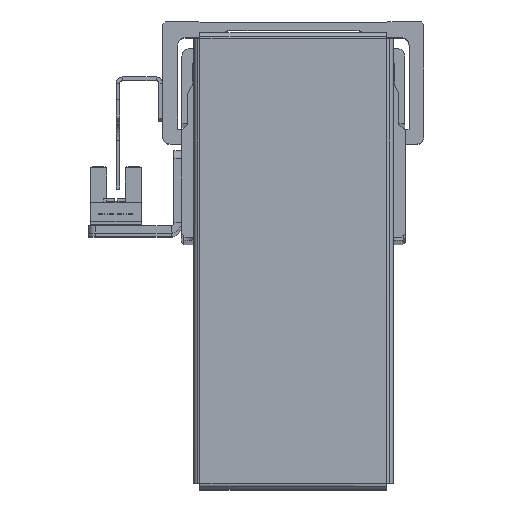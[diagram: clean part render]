
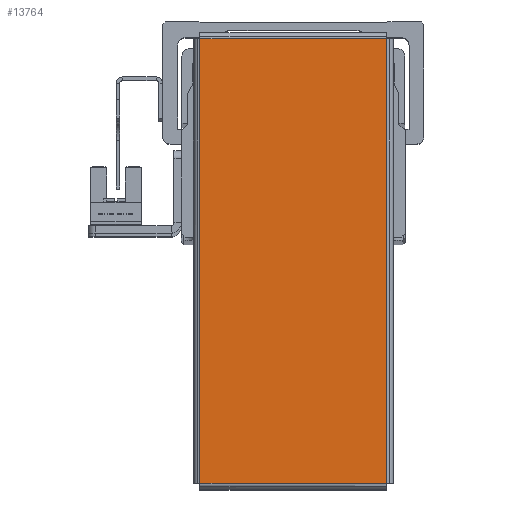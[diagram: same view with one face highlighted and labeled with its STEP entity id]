
A CAD part, top view. The second image highlights one B-rep face of the part: STEP entity #13764.
In plain terms, the highlighted planar face has unit normal (0, 0, 1) as drawn and (0, 0, -1) by its records, which use the part's own axes.
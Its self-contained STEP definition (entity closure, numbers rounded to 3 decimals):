
#2346 = ORIENTED_EDGE ( 'NONE', *, *, #22252, .T. ) ;
#2365 = ORIENTED_EDGE ( 'NONE', *, *, #22294, .T. ) ;
#2377 = ORIENTED_EDGE ( 'NONE', *, *, #22281, .T. ) ;
#2395 = ORIENTED_EDGE ( 'NONE', *, *, #22312, .T. ) ;
#9049 = CARTESIAN_POINT ( 'NONE',  ( 59.513, -25.013, -1. ) ) ;
#9057 = CARTESIAN_POINT ( 'NONE',  ( -59.513, 25.013, -1. ) ) ;
#9073 = CARTESIAN_POINT ( 'NONE',  ( -59.513, -25.013, -1. ) ) ;
#9101 = CARTESIAN_POINT ( 'NONE',  ( 59.513, 25.013, -1. ) ) ;
#13764 = ADVANCED_FACE ( 'NONE', ( #27253 ), #19178, .F. ) ;
#14533 = VERTEX_POINT ( 'NONE', #9073 ) ;
#14549 = VERTEX_POINT ( 'NONE', #9057 ) ;
#14571 = VERTEX_POINT ( 'NONE', #9049 ) ;
#14643 = VERTEX_POINT ( 'NONE', #9101 ) ;
#17417 = AXIS2_PLACEMENT_3D ( 'NONE', #19193, #19247, #19256 ) ;
#19178 = PLANE ( 'NONE',  #17417 ) ;
#19193 = CARTESIAN_POINT ( 'NONE',  ( 0., 0., -1. ) ) ;
#19247 = DIRECTION ( 'NONE',  ( 0., 0., 1. ) ) ;
#19256 = DIRECTION ( 'NONE',  ( 1., 0., 0. ) ) ;
#20914 = DIRECTION ( 'NONE',  ( 1., 0., 0. ) ) ;
#20930 = CARTESIAN_POINT ( 'NONE',  ( -59.543, 25.013, -1. ) ) ;
#20978 = CARTESIAN_POINT ( 'NONE',  ( 59.543, -25.013, -1. ) ) ;
#20995 = DIRECTION ( 'NONE',  ( 0., 1., 0. ) ) ;
#20997 = CARTESIAN_POINT ( 'NONE',  ( -59.513, -25.043, -1. ) ) ;
#21016 = DIRECTION ( 'NONE',  ( -1., 0., 0. ) ) ;
#21039 = CARTESIAN_POINT ( 'NONE',  ( 59.513, 25.043, -1. ) ) ;
#21044 = DIRECTION ( 'NONE',  ( 0., -1., 0. ) ) ;
#22252 = EDGE_CURVE ( 'NONE', #14549, #14643, #25685, .T. ) ;
#22281 = EDGE_CURVE ( 'NONE', #14571, #14533, #25740, .T. ) ;
#22294 = EDGE_CURVE ( 'NONE', #14533, #14549, #25716, .T. ) ;
#22312 = EDGE_CURVE ( 'NONE', #14643, #14571, #25786, .T. ) ;
#23172 = EDGE_LOOP ( 'NONE', ( #2395, #2377, #2365, #2346 ) ) ;
#25685 = LINE ( 'NONE', #20930, #25689 ) ;
#25689 = VECTOR ( 'NONE', #20914, 1000. ) ;
#25716 = LINE ( 'NONE', #20997, #25724 ) ;
#25724 = VECTOR ( 'NONE', #20995, 1000. ) ;
#25738 = VECTOR ( 'NONE', #21016, 1000. ) ;
#25740 = LINE ( 'NONE', #20978, #25738 ) ;
#25786 = LINE ( 'NONE', #21039, #25814 ) ;
#25814 = VECTOR ( 'NONE', #21044, 1000. ) ;
#27253 = FACE_OUTER_BOUND ( 'NONE', #23172, .T. ) ;
